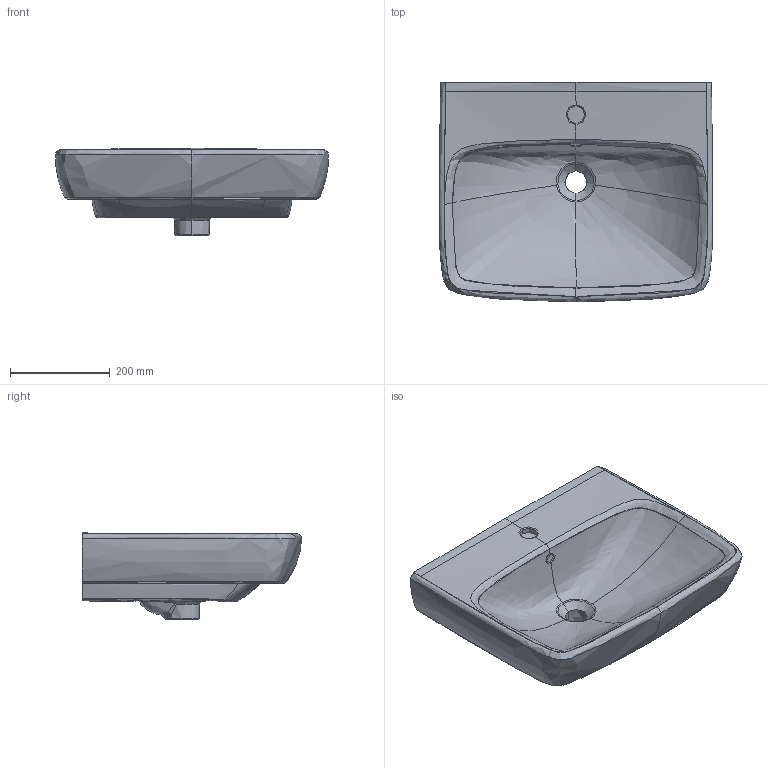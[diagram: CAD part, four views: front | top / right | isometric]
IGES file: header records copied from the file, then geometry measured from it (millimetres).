
Global section: file name: 500290; native system: Autodesk Inventor 2018; preprocessor: unknown; author: JANAN; date: 20200501.052257; units: millimetre
Bounding box: 547.61 x 440 x 174.99 mm (x, y, z)
Volume: 16397675.7 mm3; surface area: 743526.3 mm2
Topology: 1 solids, 1 shells, 135 faces, 337 edges, 203 vertices
Faces by surface type: bspline 135
